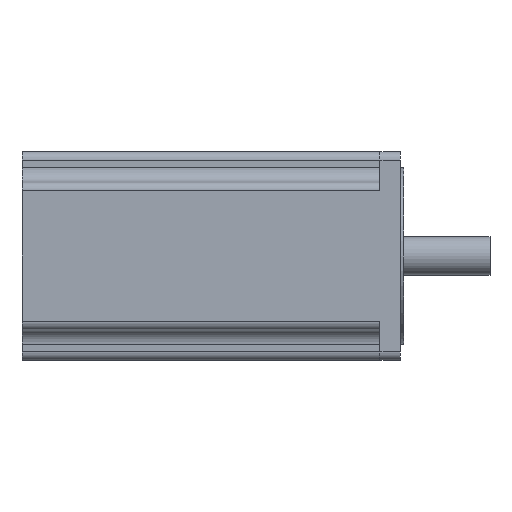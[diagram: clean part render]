
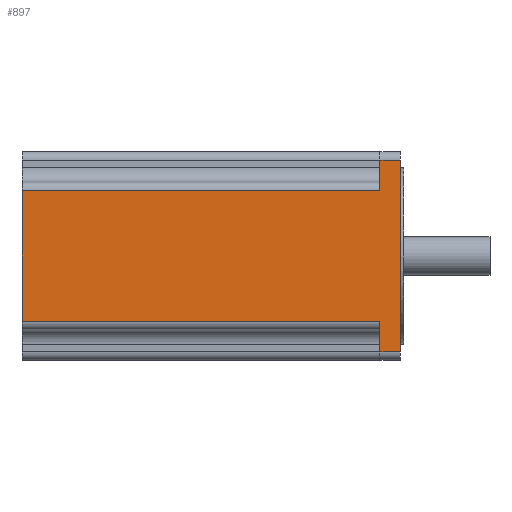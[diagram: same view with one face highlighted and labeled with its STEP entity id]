
A CAD part, front view. The second image highlights one B-rep face of the part: STEP entity #897.
In plain terms, the highlighted planar face has unit normal (0, -1, 0).
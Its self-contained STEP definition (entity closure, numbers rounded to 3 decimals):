
#36 = VERTEX_POINT ( 'NONE', #1345 ) ;
#492 = VERTEX_POINT ( 'NONE', #1416 ) ;
#495 = EDGE_CURVE ( 'NONE', #492, #36, #1410, .T. ) ;
#744 = VERTEX_POINT ( 'NONE', #1899 ) ;
#746 = EDGE_CURVE ( 'NONE', #744, #747, #1898, .T. ) ;
#747 = VERTEX_POINT ( 'NONE', #1894 ) ;
#792 = VERTEX_POINT ( 'NONE', #1937 ) ;
#794 = EDGE_CURVE ( 'NONE', #792, #795, #1936, .T. ) ;
#795 = VERTEX_POINT ( 'NONE', #1932 ) ;
#879 = EDGE_CURVE ( 'NONE', #893, #958, #2118, .T. ) ;
#880 = ORIENTED_EDGE ( 'NONE', *, *, #892, .T. ) ;
#881 = ORIENTED_EDGE ( 'NONE', *, *, #746, .F. ) ;
#882 = ORIENTED_EDGE ( 'NONE', *, *, #883, .T. ) ;
#883 = EDGE_CURVE ( 'NONE', #744, #795, #2111, .T. ) ;
#884 = ORIENTED_EDGE ( 'NONE', *, *, #794, .F. ) ;
#892 = EDGE_CURVE ( 'NONE', #893, #747, #2101, .T. ) ;
#893 = VERTEX_POINT ( 'NONE', #2097 ) ;
#897 = ADVANCED_FACE ( 'NONE', ( #2090 ), #2096, .F. ) ;
#898 = EDGE_LOOP ( 'NONE', ( #955, #956, #959, #880, #881, #882, #884, #940 ) ) ;
#940 = ORIENTED_EDGE ( 'NONE', *, *, #941, .T. ) ;
#941 = EDGE_CURVE ( 'NONE', #792, #492, #2206, .T. ) ;
#955 = ORIENTED_EDGE ( 'NONE', *, *, #495, .T. ) ;
#956 = ORIENTED_EDGE ( 'NONE', *, *, #957, .T. ) ;
#957 = EDGE_CURVE ( 'NONE', #36, #958, #2240, .T. ) ;
#958 = VERTEX_POINT ( 'NONE', #2236 ) ;
#959 = ORIENTED_EDGE ( 'NONE', *, *, #879, .F. ) ;
#1345 = CARTESIAN_POINT ( 'NONE',  ( -70.909, -39.065, -26.925 ) ) ;
#1407 = DIRECTION ( 'NONE',  ( 0., 0., -1. ) ) ;
#1408 = VECTOR ( 'NONE', #1407, 1000. ) ;
#1409 = CARTESIAN_POINT ( 'NONE',  ( -70.909, -39.065, 42.925 ) ) ;
#1410 = LINE ( 'NONE', #1409, #1408 ) ;
#1416 = CARTESIAN_POINT ( 'NONE',  ( -70.909, -39.065, 26.925 ) ) ;
#1894 = CARTESIAN_POINT ( 'NONE',  ( 85.091, -39.065, -39.425 ) ) ;
#1895 = DIRECTION ( 'NONE',  ( 0., 0., -1. ) ) ;
#1896 = VECTOR ( 'NONE', #1895, 1000. ) ;
#1897 = CARTESIAN_POINT ( 'NONE',  ( 85.091, -39.065, 42.925 ) ) ;
#1898 = LINE ( 'NONE', #1897, #1896 ) ;
#1899 = CARTESIAN_POINT ( 'NONE',  ( 85.091, -39.065, 39.425 ) ) ;
#1932 = CARTESIAN_POINT ( 'NONE',  ( 76.711, -39.065, 39.425 ) ) ;
#1933 = DIRECTION ( 'NONE',  ( 0., 0., 1. ) ) ;
#1934 = VECTOR ( 'NONE', #1933, 1000. ) ;
#1935 = CARTESIAN_POINT ( 'NONE',  ( 76.711, -39.065, 42.925 ) ) ;
#1936 = LINE ( 'NONE', #1935, #1934 ) ;
#1937 = CARTESIAN_POINT ( 'NONE',  ( 76.711, -39.065, 26.925 ) ) ;
#2089 = AXIS2_PLACEMENT_3D ( 'NONE', #2150, #2149, #2148 ) ;
#2090 = FACE_OUTER_BOUND ( 'NONE', #898, .T. ) ;
#2096 = PLANE ( 'NONE',  #2089 ) ;
#2097 = CARTESIAN_POINT ( 'NONE',  ( 76.711, -39.065, -39.425 ) ) ;
#2098 = DIRECTION ( 'NONE',  ( 1., 0., 0. ) ) ;
#2099 = VECTOR ( 'NONE', #2098, 1000. ) ;
#2100 = CARTESIAN_POINT ( 'NONE',  ( 85.091, -39.065, -39.425 ) ) ;
#2101 = LINE ( 'NONE', #2100, #2099 ) ;
#2108 = DIRECTION ( 'NONE',  ( -1., 0., 0. ) ) ;
#2109 = VECTOR ( 'NONE', #2108, 1000. ) ;
#2110 = CARTESIAN_POINT ( 'NONE',  ( 85.091, -39.065, 39.425 ) ) ;
#2111 = LINE ( 'NONE', #2110, #2109 ) ;
#2112 = DIRECTION ( 'NONE',  ( 0., 0., 1. ) ) ;
#2113 = VECTOR ( 'NONE', #2112, 1000. ) ;
#2114 = CARTESIAN_POINT ( 'NONE',  ( 76.711, -39.065, -42.925 ) ) ;
#2118 = LINE ( 'NONE', #2114, #2113 ) ;
#2148 = DIRECTION ( 'NONE',  ( 0., 0., 1. ) ) ;
#2149 = DIRECTION ( 'NONE',  ( 0., 1., 0. ) ) ;
#2150 = CARTESIAN_POINT ( 'NONE',  ( 85.091, -39.065, 42.925 ) ) ;
#2203 = DIRECTION ( 'NONE',  ( -1., 0., 0. ) ) ;
#2204 = VECTOR ( 'NONE', #2203, 1000. ) ;
#2205 = CARTESIAN_POINT ( 'NONE',  ( 85.091, -39.065, 26.925 ) ) ;
#2206 = LINE ( 'NONE', #2205, #2204 ) ;
#2236 = CARTESIAN_POINT ( 'NONE',  ( 76.711, -39.065, -26.925 ) ) ;
#2237 = DIRECTION ( 'NONE',  ( 1., 0., 0. ) ) ;
#2238 = VECTOR ( 'NONE', #2237, 1000. ) ;
#2239 = CARTESIAN_POINT ( 'NONE',  ( 85.091, -39.065, -26.925 ) ) ;
#2240 = LINE ( 'NONE', #2239, #2238 ) ;
